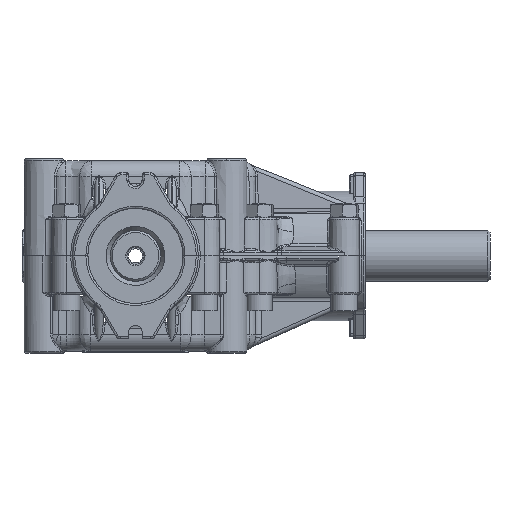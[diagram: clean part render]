
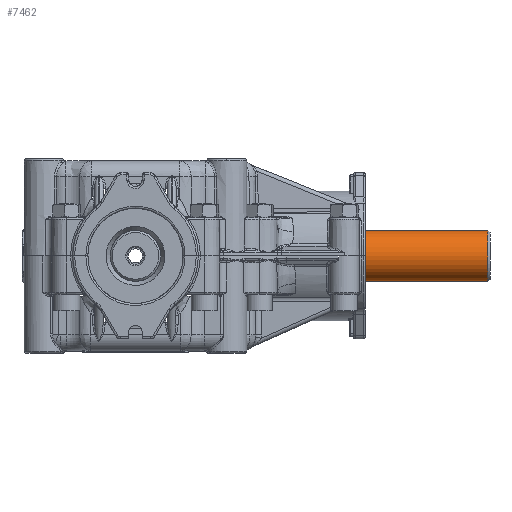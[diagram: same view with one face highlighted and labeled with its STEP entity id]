
A CAD part, left-side view. The second image highlights one B-rep face of the part: STEP entity #7462.
In plain terms, the highlighted cylindrical face has radius 12.5 mm (diameter 25 mm), a full revolution.
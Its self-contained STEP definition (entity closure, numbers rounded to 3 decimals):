
#1391=FACE_BOUND('',#10714,.T.);
#1392=FACE_BOUND('',#10715,.T.);
#1393=FACE_BOUND('',#10716,.T.);
#2484=CYLINDRICAL_SURFACE('',#35349,12.5);
#3484=LINE('',#45592,#5467);
#3488=LINE('',#45632,#5471);
#5467=VECTOR('',#38130,1.);
#5471=VECTOR('',#38138,1.);
#7462=ADVANCED_FACE('',(#1391,#1392,#1393),#2484,.T.);
#10714=EDGE_LOOP('',(#14136,#14137,#14138,#14139));
#10715=EDGE_LOOP('',(#14140));
#10716=EDGE_LOOP('',(#14141));
#12501=CIRCLE('',#35337,12.5);
#12506=CIRCLE('',#35348,12.5);
#14136=ORIENTED_EDGE('',*,*,#27491,.F.);
#14137=ORIENTED_EDGE('',*,*,#27494,.F.);
#14138=ORIENTED_EDGE('',*,*,#27496,.F.);
#14139=ORIENTED_EDGE('',*,*,#27498,.F.);
#14140=ORIENTED_EDGE('',*,*,#27484,.T.);
#14141=ORIENTED_EDGE('',*,*,#27499,.T.);
#23137=VERTEX_POINT('',#45576);
#23144=VERTEX_POINT('',#45593);
#23145=VERTEX_POINT('',#45594);
#23146=VERTEX_POINT('',#45629);
#23147=VERTEX_POINT('',#45633);
#23148=VERTEX_POINT('',#45668);
#27484=EDGE_CURVE('',#23137,#23137,#12501,.T.);
#27491=EDGE_CURVE('',#23144,#23145,#3484,.T.);
#27494=EDGE_CURVE('',#23146,#23144,#33252,.T.);
#27496=EDGE_CURVE('',#23147,#23146,#3488,.T.);
#27498=EDGE_CURVE('',#23145,#23147,#33253,.T.);
#27499=EDGE_CURVE('',#23148,#23148,#12506,.T.);
#33252=B_SPLINE_CURVE_WITH_KNOTS('',3,(#45598,#45599,#45600,#45601,#45602,
#45603,#45604,#45605,#45606,#45607,#45608,#45609,#45610,#45611,#45612,#45613,
#45614,#45615,#45616,#45617,#45618,#45619,#45620,#45621,#45622,#45623,#45624,
#45625,#45626,#45627,#45628),.UNSPECIFIED.,.F.,.F.,(4,3,3,3,3,3,3,3,3,3,
4),(0.,0.104,0.207,0.314,0.423,
0.529,0.631,0.735,0.842,
0.952,1.),.UNSPECIFIED.);
#33253=B_SPLINE_CURVE_WITH_KNOTS('',3,(#45636,#45637,#45638,#45639,#45640,
#45641,#45642,#45643,#45644,#45645,#45646,#45647,#45648,#45649,#45650,#45651,
#45652,#45653,#45654,#45655,#45656,#45657,#45658,#45659,#45660,#45661,#45662,
#45663,#45664,#45665,#45666),.UNSPECIFIED.,.F.,.F.,(4,3,3,3,3,3,3,3,3,3,
4),(0.,0.104,0.207,0.314,0.423,
0.529,0.631,0.735,0.842,
0.952,1.),.UNSPECIFIED.);
#35337=AXIS2_PLACEMENT_3D('',#45575,#38112,#38113);
#35348=AXIS2_PLACEMENT_3D('',#45667,#38142,#38143);
#35349=AXIS2_PLACEMENT_3D('',#45669,#38144,#38145);
#38112=DIRECTION('',(0.,1.,0.));
#38113=DIRECTION('',(1.,0.,0.));
#38130=DIRECTION('',(0.,-1.,0.));
#38138=DIRECTION('',(0.,1.,0.));
#38142=DIRECTION('',(0.,-1.,0.));
#38143=DIRECTION('',(1.,0.,0.));
#38144=DIRECTION('',(0.,-1.,0.));
#38145=DIRECTION('',(1.,0.,0.));
#45575=CARTESIAN_POINT('',(0.,-174.,0.));
#45576=CARTESIAN_POINT('',(12.5,-174.,0.));
#45592=CARTESIAN_POINT('',(11.843,-21.9,4.));
#45593=CARTESIAN_POINT('',(11.843,-149.,4.));
#45594=CARTESIAN_POINT('',(11.843,-166.,4.));
#45598=CARTESIAN_POINT('',(11.843,-149.,-4.));
#45599=CARTESIAN_POINT('',(11.843,-148.565,-4.));
#45600=CARTESIAN_POINT('',(11.868,-148.125,-3.927));
#45601=CARTESIAN_POINT('',(11.912,-147.715,-3.788));
#45602=CARTESIAN_POINT('',(11.956,-147.306,-3.649));
#45603=CARTESIAN_POINT('',(12.02,-146.917,-3.441));
#45604=CARTESIAN_POINT('',(12.088,-146.576,-3.182));
#45605=CARTESIAN_POINT('',(12.159,-146.223,-2.913));
#45606=CARTESIAN_POINT('',(12.236,-145.913,-2.582));
#45607=CARTESIAN_POINT('',(12.303,-145.668,-2.212));
#45608=CARTESIAN_POINT('',(12.371,-145.417,-1.834));
#45609=CARTESIAN_POINT('',(12.429,-145.227,-1.405));
#45610=CARTESIAN_POINT('',(12.463,-145.117,-0.961));
#45611=CARTESIAN_POINT('',(12.496,-145.011,-0.531));
#45612=CARTESIAN_POINT('',(12.508,-144.976,-0.075));
#45613=CARTESIAN_POINT('',(12.495,-145.017,0.367));
#45614=CARTESIAN_POINT('',(12.482,-145.056,0.793));
#45615=CARTESIAN_POINT('',(12.447,-145.166,1.218));
#45616=CARTESIAN_POINT('',(12.396,-145.337,1.607));
#45617=CARTESIAN_POINT('',(12.345,-145.51,2.001));
#45618=CARTESIAN_POINT('',(12.278,-145.749,2.37));
#45619=CARTESIAN_POINT('',(12.208,-146.037,2.687));
#45620=CARTESIAN_POINT('',(12.135,-146.337,3.018));
#45621=CARTESIAN_POINT('',(12.058,-146.697,3.301));
#45622=CARTESIAN_POINT('',(11.996,-147.091,3.515));
#45623=CARTESIAN_POINT('',(11.932,-147.49,3.731));
#45624=CARTESIAN_POINT('',(11.882,-147.934,3.882));
#45625=CARTESIAN_POINT('',(11.859,-148.386,3.953));
#45626=CARTESIAN_POINT('',(11.848,-148.588,3.984));
#45627=CARTESIAN_POINT('',(11.843,-148.795,4.));
#45628=CARTESIAN_POINT('',(11.843,-149.,4.));
#45629=CARTESIAN_POINT('',(11.843,-149.,-4.));
#45632=CARTESIAN_POINT('',(11.843,-21.9,-4.));
#45633=CARTESIAN_POINT('',(11.843,-166.,-4.));
#45636=CARTESIAN_POINT('',(11.843,-166.,4.));
#45637=CARTESIAN_POINT('',(11.843,-166.435,4.));
#45638=CARTESIAN_POINT('',(11.868,-166.875,3.927));
#45639=CARTESIAN_POINT('',(11.912,-167.285,3.788));
#45640=CARTESIAN_POINT('',(11.956,-167.694,3.649));
#45641=CARTESIAN_POINT('',(12.02,-168.083,3.441));
#45642=CARTESIAN_POINT('',(12.088,-168.424,3.182));
#45643=CARTESIAN_POINT('',(12.159,-168.777,2.913));
#45644=CARTESIAN_POINT('',(12.236,-169.087,2.582));
#45645=CARTESIAN_POINT('',(12.303,-169.332,2.212));
#45646=CARTESIAN_POINT('',(12.371,-169.583,1.834));
#45647=CARTESIAN_POINT('',(12.429,-169.773,1.405));
#45648=CARTESIAN_POINT('',(12.463,-169.883,0.961));
#45649=CARTESIAN_POINT('',(12.496,-169.989,0.531));
#45650=CARTESIAN_POINT('',(12.508,-170.024,0.075));
#45651=CARTESIAN_POINT('',(12.495,-169.983,-0.367));
#45652=CARTESIAN_POINT('',(12.482,-169.944,-0.793));
#45653=CARTESIAN_POINT('',(12.447,-169.834,-1.218));
#45654=CARTESIAN_POINT('',(12.396,-169.663,-1.607));
#45655=CARTESIAN_POINT('',(12.345,-169.49,-2.001));
#45656=CARTESIAN_POINT('',(12.278,-169.251,-2.37));
#45657=CARTESIAN_POINT('',(12.208,-168.963,-2.687));
#45658=CARTESIAN_POINT('',(12.135,-168.663,-3.018));
#45659=CARTESIAN_POINT('',(12.058,-168.303,-3.301));
#45660=CARTESIAN_POINT('',(11.996,-167.909,-3.515));
#45661=CARTESIAN_POINT('',(11.932,-167.51,-3.731));
#45662=CARTESIAN_POINT('',(11.882,-167.066,-3.882));
#45663=CARTESIAN_POINT('',(11.859,-166.614,-3.953));
#45664=CARTESIAN_POINT('',(11.848,-166.412,-3.984));
#45665=CARTESIAN_POINT('',(11.843,-166.205,-4.));
#45666=CARTESIAN_POINT('',(11.843,-166.,-4.));
#45667=CARTESIAN_POINT('',(0.,-102.7,0.));
#45668=CARTESIAN_POINT('',(12.5,-102.7,0.));
#45669=CARTESIAN_POINT('',(0.,-21.9,0.));
